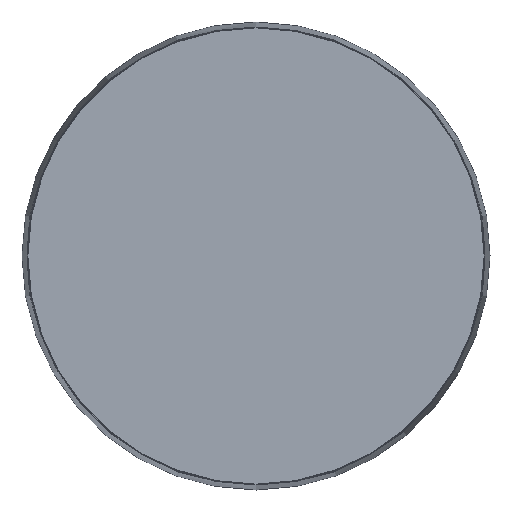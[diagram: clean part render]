
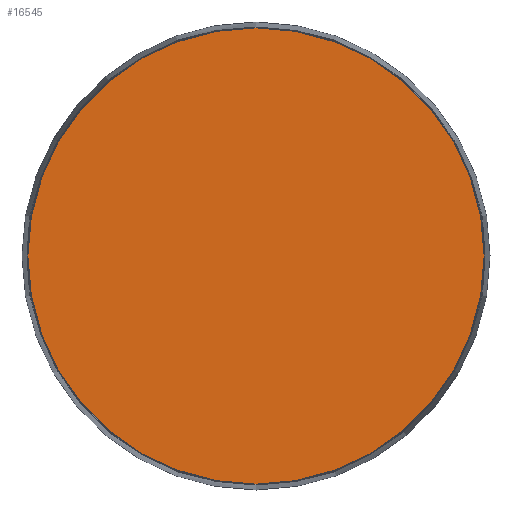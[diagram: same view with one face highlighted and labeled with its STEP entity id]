
A CAD part, front view. The second image highlights one B-rep face of the part: STEP entity #16545.
In plain terms, the highlighted planar face has unit normal (0, -1, 0).
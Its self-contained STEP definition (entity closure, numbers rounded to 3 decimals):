
#16502=CARTESIAN_POINT('',(0.,-182.,0.));
#16503=DIRECTION('',(0.,-1.,0.));
#16504=DIRECTION('',(0.,0.,-1.));
#16505=AXIS2_PLACEMENT_3D('',#16502,#16503,#16504);
#16521=CARTESIAN_POINT('',(0.,-182.,0.));
#16522=DIRECTION('',(0.,1.,0.));
#16523=DIRECTION('',(0.,0.,-1.));
#16524=AXIS2_PLACEMENT_3D('',#16521,#16522,#16523);
#16526=CARTESIAN_POINT('',(0.,-182.,-29.248));
#16528=VERTEX_POINT('',#16526);
#16530=CARTESIAN_POINT('',(0.,-182.,29.248));
#16532=VERTEX_POINT('',#16530);
#16534=CARTESIAN_POINT('',(0.,-182.,0.));
#16535=DIRECTION('',(0.,1.,0.));
#16536=DIRECTION('',(0.,0.,-1.));
#16537=AXIS2_PLACEMENT_3D('',#16534,#16535,#16536);
#16538=PLANE('',#16537);
#16540=ORIENTED_EDGE('',*,*,#16539,.F.);
#16542=ORIENTED_EDGE('',*,*,#16541,.T.);
#16543=EDGE_LOOP('',(#16540,#16542));
#16544=FACE_OUTER_BOUND('',#16543,.F.);
#16545=ADVANCED_FACE('',(#16544),#16538,.F.);
#16506=CIRCLE('',#16505,29.248);
#16525=CIRCLE('',#16524,29.248);
#16539=EDGE_CURVE('',#16528,#16532,#16506,.T.);
#16541=EDGE_CURVE('',#16528,#16532,#16525,.T.);
